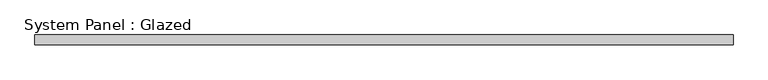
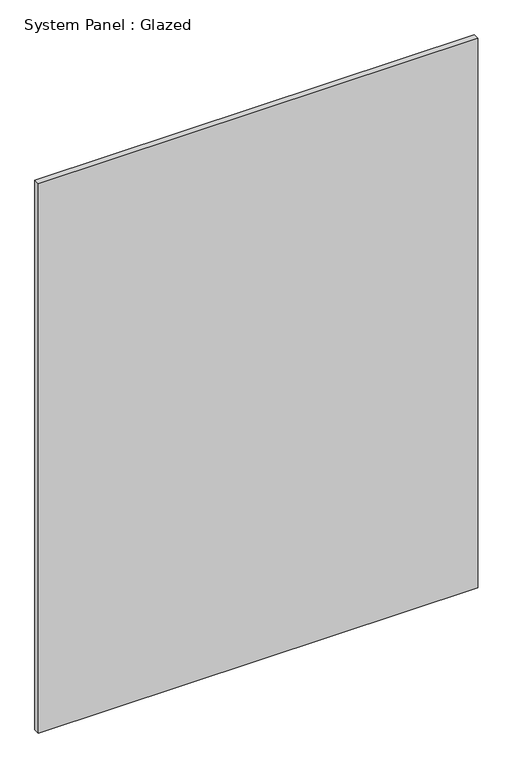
"""IFC4 building model written with IfcOpenShell, lengths in millimetres: plate geometry, System Panel : Glazed."""

import ifcopenshell
import ifcopenshell.guid

model = None  # the IFC model being written
_history = None  # IfcOwnerHistory: only IFC2X3 demands one
_inside = {}  # id of a spatial element -> (the spatial element, [elements in it])
_under = {}  # id of a project, library or spatial element -> (it, [spatial elements below it])
_declared = {}  # id of a project -> (the project, [libraries it declares])
_typed = {}  # id of a type object -> (the type object, [elements of that type])
_made_of = {}  # id of a material, layer set ... -> (it, [elements and type objects made of it])


def new_model(schema):
    """Start an empty IFC model of exactly this schema.

    Asked for "IFC4X3", IfcOpenShell would pick the latest addendum, in which some entities
    have other attributes; the version numbers below select the first issue.
    IFC2X3 requires an IfcOwnerHistory on every rooted entity: one is made here for all.
    """
    global model, _history
    if schema == "IFC4X3":
        model = ifcopenshell.file(schema_version=(4, 3, 0, 0))
    else:
        model = ifcopenshell.file(schema=schema)
    _inside.clear()
    _under.clear()
    _declared.clear()
    _typed.clear()
    _made_of.clear()
    _history = None
    if model.schema == "IFC2X3":
        org = make("IfcOrganization", Name="unknown")
        user = make(
            "IfcPersonAndOrganization",
            ThePerson=make("IfcPerson", FamilyName="unknown"),
            TheOrganization=org,
        )
        app = make(
            "IfcApplication",
            ApplicationDeveloper=org,
            Version="unknown",
            ApplicationFullName="unknown",
            ApplicationIdentifier="unknown",
        )
        _history = make(
            "IfcOwnerHistory",
            OwningUser=user,
            OwningApplication=app,
            ChangeAction="ADDED",
            CreationDate=0,
        )
    return model


def make(cls, **values):
    """One entity of the class cls with the attributes given. An attribute that is None is left unset."""
    return model.create_entity(
        cls, **{name: value for name, value in values.items() if value is not None}
    )


def rooted(cls, **values):
    """An entity with a GlobalId (a new one), such as an element, a storey or a relation."""
    return make(cls, GlobalId=ifcopenshell.guid.new(), OwnerHistory=_history, **values)


def si_unit(unit_type, name, prefix=None):
    """IfcSIUnit, for example si_unit("LENGTHUNIT", "METRE", prefix="MILLI")."""
    return make("IfcSIUnit", UnitType=unit_type, Prefix=prefix, Name=name)


def assignment(units):
    """IfcUnitAssignment: the units of a project."""
    return None if units is None else make("IfcUnitAssignment", Units=units)


def point(xyz):
    """IfcCartesianPoint."""
    return None if xyz is None else make("IfcCartesianPoint", Coordinates=xyz)


def direction(xyz):
    """IfcDirection."""
    return None if xyz is None else make("IfcDirection", DirectionRatios=xyz)


def frame(location, z_axis=None, x_axis=None):
    """IfcAxis2Placement3D, a coordinate frame: its origin and axes. An axis left out is left unset."""
    return make(
        "IfcAxis2Placement3D",
        Location=point(location),
        Axis=direction(z_axis),
        RefDirection=direction(x_axis),
    )


def origin():
    """The frame at (0, 0, 0) with its axes left unset."""
    return frame((0.0, 0.0, 0.0))


def origin_with_axes():
    """The frame at (0, 0, 0) with the z axis (0, 0, 1) and the x axis (1, 0, 0) written out."""
    return frame((0.0, 0.0, 0.0), z_axis=(0.0, 0.0, 1.0), x_axis=(1.0, 0.0, 0.0))


def place(relative_to, where):
    """IfcLocalPlacement: puts the frame where relative to a parent placement (None: the world)."""
    return make(
        "IfcLocalPlacement", PlacementRelTo=relative_to, RelativePlacement=where
    )


def context(
    kind, dimensions, precision=None, world=None, true_north=None, identifier=None
):
    """IfcGeometricRepresentationContext, for example the 3D "Model" context."""
    return make(
        "IfcGeometricRepresentationContext",
        ContextIdentifier=identifier,
        ContextType=kind,
        CoordinateSpaceDimension=dimensions,
        Precision=precision,
        WorldCoordinateSystem=world,
        TrueNorth=true_north,
    )


def project(units=None, contexts=None):
    """IfcProject with its units and contexts."""
    return rooted(
        "IfcProject",
        Name="project",
        RepresentationContexts=contexts,
        UnitsInContext=assignment(units),
    )


def spatial(cls, under=None, at=None, **own):
    """A site, building, storey or space (cls), placed at a placement, below another one or the project."""
    s = rooted(cls, ObjectPlacement=at, **own)
    if under is not None:
        _under.setdefault(under.id(), (under, []))[1].append(s)
    return s


def polyline(points):
    """IfcPolyline through the points."""
    return make("IfcPolyline", Points=[point(p) for p in points])


def outline(outer, holes=None, kind="AREA"):
    """IfcArbitraryClosedProfileDef: a profile drawn as a closed curve; with holes, ...WithVoids."""
    if holes is None:
        return make("IfcArbitraryClosedProfileDef", ProfileType=kind, OuterCurve=outer)
    return make(
        "IfcArbitraryProfileDefWithVoids",
        ProfileType=kind,
        OuterCurve=outer,
        InnerCurves=holes,
    )


def extrude(swept, where, along, depth):
    """IfcExtrudedAreaSolid: the profile swept, set in the frame where, extruded along a direction by depth."""
    return make(
        "IfcExtrudedAreaSolid",
        SweptArea=swept,
        Position=where,
        ExtrudedDirection=direction(along),
        Depth=depth,
    )


def shape(context_of_items, identifier, shape_type, items):
    """IfcShapeRepresentation: the items that make up one representation, for example the "Body"."""
    return make(
        "IfcShapeRepresentation",
        ContextOfItems=context_of_items,
        RepresentationIdentifier=identifier,
        RepresentationType=shape_type,
        Items=items,
    )


def source(mapping_origin, context_of_items, identifier, shape_type, items):
    """IfcRepresentationMap: a shape defined once, which mapped items show again and again."""
    return make(
        "IfcRepresentationMap",
        MappingOrigin=mapping_origin,
        MappedRepresentation=shape(context_of_items, identifier, shape_type, items),
    )


def transform(
    local_origin,
    x_axis=None,
    y_axis=None,
    z_axis=None,
    scale=None,
    scale2=None,
    scale3=None,
    uniform=True,
):
    """IfcCartesianTransformationOperator3D, or its non-uniform kind. x_axis, y_axis, z_axis: its Axis1, 2, 3."""
    if uniform:
        return make(
            "IfcCartesianTransformationOperator3D",
            Axis1=direction(x_axis),
            Axis2=direction(y_axis),
            LocalOrigin=point(local_origin),
            Scale=scale,
            Axis3=direction(z_axis),
        )
    return make(
        "IfcCartesianTransformationOperator3DnonUniform",
        Axis1=direction(x_axis),
        Axis2=direction(y_axis),
        LocalOrigin=point(local_origin),
        Scale=scale,
        Axis3=direction(z_axis),
        Scale2=scale2,
        Scale3=scale3,
    )


def mapped(mapping_source, mapping_target):
    """IfcMappedItem: shows the shape of a source again, moved by a transform."""
    return make(
        "IfcMappedItem", MappingSource=mapping_source, MappingTarget=mapping_target
    )


def made_of(thing, what):
    """Note that an element or type object is made of a material, layer set ...; save() writes the relation."""
    if what is not None:
        _made_of.setdefault(what.id(), (what, []))[1].append(thing)
    return thing


def element(
    cls,
    number,
    at=None,
    inside=None,
    cuts=None,
    type_object=None,
    material=None,
    context=None,
    identifier="Body",
    shape_type=None,
    held_by="IfcProductDefinitionShape",
    body=None,
    shapes=None,
    **own,
):
    """One element of the class cls, such as IfcWall. Its Tag is "e" and its number.

    at: its placement. inside: the storey or other place that contains it. cuts: it is an
    opening in that element (IfcRelVoidsElement). A single representation is given by context,
    identifier, shape_type and body (its items); several are given by shapes. held_by: the class
    of the entity that holds the representations. save() writes the other relations.
    """
    e = rooted(cls, Tag="e%d" % number, ObjectPlacement=at, **own)
    if body is not None:
        shapes = [shape(context, identifier, shape_type, body)]
    if shapes is not None:
        e.Representation = make(held_by, Representations=shapes)
    if inside is not None:
        _inside.setdefault(inside.id(), (inside, []))[1].append(e)
    if cuts is not None:
        rooted(
            "IfcRelVoidsElement", RelatingBuildingElement=cuts, RelatedOpeningElement=e
        )
    if type_object is not None:
        _typed.setdefault(type_object.id(), (type_object, []))[1].append(e)
    return made_of(e, material)


def aggregate(whole, parts):
    """IfcRelAggregates: a whole, such as a stair, and the parts it consists of."""
    return rooted("IfcRelAggregates", RelatingObject=whole, RelatedObjects=parts)


def save(model, path):
    """Write the relations noted so far, then the file.

    IfcRelAggregates (storeys below a building ...), IfcRelContainedInSpatialStructure (elements
    in a storey), IfcRelDefinesByType, IfcRelAssociatesMaterial and IfcRelDeclares: one each for
    every whole, place, type object, material and project.
    """
    for whole, parts in _under.values():
        aggregate(whole, parts)
    for where, things in _inside.values():
        rooted(
            "IfcRelContainedInSpatialStructure",
            RelatedElements=things,
            RelatingStructure=where,
        )
    for kind, things in _typed.values():
        rooted("IfcRelDefinesByType", RelatedObjects=things, RelatingType=kind)
    for what, things in _made_of.values():
        rooted("IfcRelAssociatesMaterial", RelatedObjects=things, RelatingMaterial=what)
    for by, libraries in _declared.values():
        rooted("IfcRelDeclares", RelatingContext=by, RelatedDefinitions=libraries)
    model.write(path)


def system_panel_glazed_071f0d51(model_context):
    return source(origin(), model_context, "Body", "SweptSolid", [
        extrude(outline(polyline([(898.525, 19.05), (-898.525, 19.05), (-898.525, 44.45), (898.525, 44.45), (898.525, 19.05)])), origin_with_axes(), (0.0, 0.0, 1.0), 2374.9),
    ])


if __name__ == "__main__":
    model = new_model("IFC4")
    model_context = context("Model", 3, world=origin())
    ifc_project = project(units=[si_unit("LENGTHUNIT", "METRE", prefix="MILLI")], contexts=[model_context])
    site = spatial("IfcSite", under=ifc_project)
    building = spatial("IfcBuilding", under=site)
    placement = place(None, origin())
    system_panel_glazed_shape = system_panel_glazed_071f0d51(model_context)
    element("IfcPlate", 1, ObjectType="System Panel : Glazed", at=placement, inside=building, context=model_context, shape_type="MappedRepresentation", body=[
        mapped(system_panel_glazed_shape, transform((0.0, 0.0, 0.0), x_axis=(1.0, 0.0, 0.0), y_axis=(0.0, 1.0, 0.0), z_axis=(0.0, 0.0, 1.0))),
    ])
    save(model, "model.ifc")
